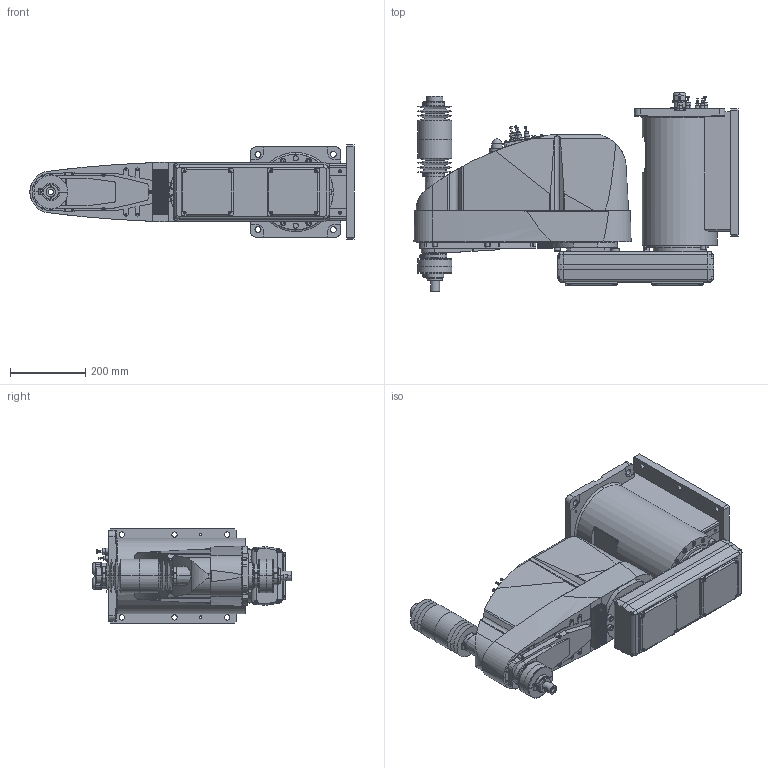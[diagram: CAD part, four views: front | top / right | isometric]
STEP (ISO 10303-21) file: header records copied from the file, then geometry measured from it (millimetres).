
FILE_DESCRIPTION( ( '' ), '1' );
FILE_NAME( '//expscmdclustefs.cadenas.external/client_exchange/iodir/jobs/output/wkb51513436_no0/STEP/G10_651PW_2_03.stp', '2012-11-22T16:02:35', ( '' ), ( '' ), ' ', ' ', ' ' );
FILE_SCHEMA( ( 'CONFIG_CONTROL_DESIGN' ) );
Length unit declared in the file: millimetre
Products named in the file (8): 1; 2; 3; 4; 5; 6; 7; 8
Bounding box: 860.5 x 528 x 250 mm (x, y, z)
Volume: 40898906.4 mm3; surface area: 1682375.6 mm2
Topology: 8 solids, 8 shells, 2290 faces, 5553 edges, 3572 vertices
Faces by surface type: plane 1183, cylinder 777, cone 298, torus 31, sphere 1
Entity records: 69156 total; most frequent: CARTESIAN_POINT 13672, DIRECTION 11905, ORIENTED_EDGE 11074, EDGE_CURVE 5537, AXIS2_PLACEMENT_3D 4232, VERTEX_POINT 3572, LINE 3441, VECTOR 3441
